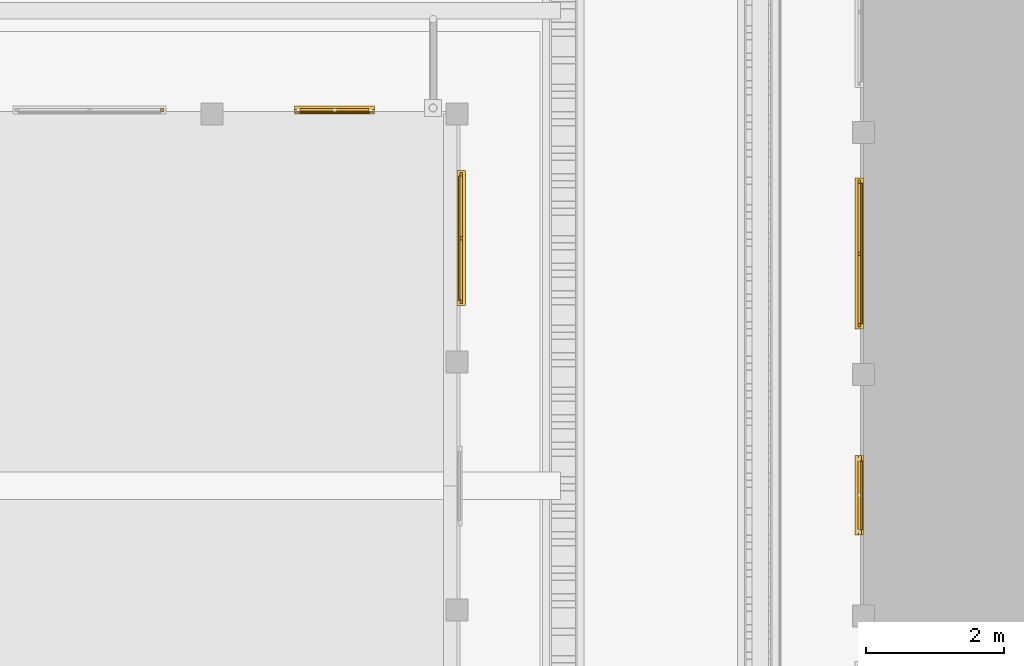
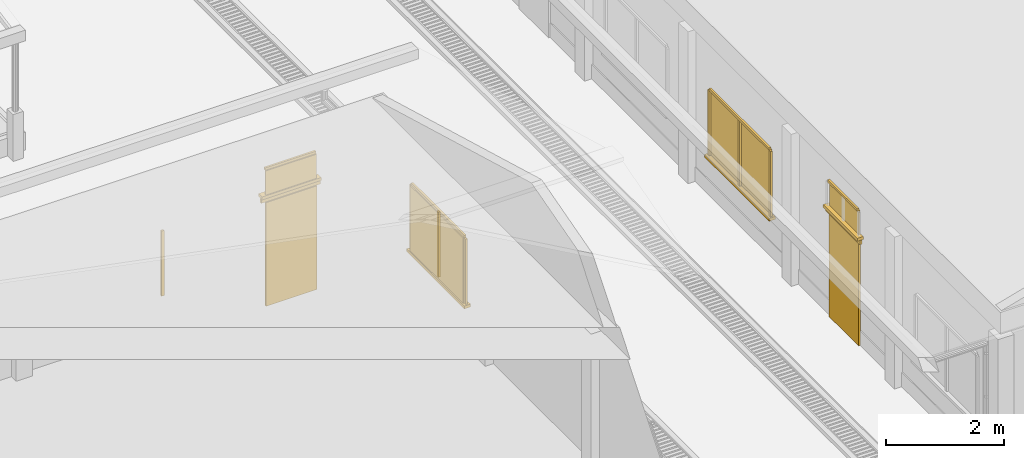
# One storey, part 58 of 166: 19 windows, 4 doors.
"""IFC2X3 building model written with IfcOpenShell, lengths in metres."""

from ifc_helpers import new_model, si_unit, origin, origin_with_axes, place, context, subcontext, project, spatial, faceted_brep, element, save


model = new_model("IFC2X3")

# Units and contexts
model_context = context("Model", 3, precision=1e-05, world=origin_with_axes())
body_context = subcontext(model_context, "Body", "Model", "MODEL_VIEW")
ifc_project = project(units=[si_unit("LENGTHUNIT", "METRE"), si_unit("AREAUNIT", "SQUARE_METRE"), si_unit("VOLUMEUNIT", "CUBIC_METRE"), si_unit("PLANEANGLEUNIT", "RADIAN")], contexts=[model_context])

# Site, building, storey
site_placement = place(None, origin_with_axes())
site = spatial("IfcSite", under=ifc_project, at=site_placement, Name="Predio Los Mangos - Morales, San Martín", CompositionType="ELEMENT")
building_placement = place(site_placement, origin())
building = spatial("IfcBuilding", under=site, at=building_placement, Name="Hogar de Refugio Temporal", CompositionType="ELEMENT")
storey_placement = place(building_placement, origin())
storey = spatial("IfcBuildingStorey", under=building, at=storey_placement, Name="NIVEL 1 (NPT +0.00)", CompositionType="ELEMENT", Elevation=0.0)

# Window
window_1_placement = place(storey_placement, origin())
element("IfcWindow", 1, at=window_1_placement, inside=storey, Name="E-06_v3_m", ObjectType="Ventana", context=body_context, shape_type="Brep", body=[
    faceted_brep([(45.4924, 103.54, 1.05), (45.4924, 103.58, 1.05), (45.5424, 103.58, 1.05), (45.5424, 103.54, 1.05), (45.4924, 103.54, 2.4), (45.5424, 103.54, 2.4), (45.5424, 103.58, 2.4), (45.4924, 103.58, 2.4)], [[[0, 1, 2, 3]], [[4, 5, 6, 7]], [[0, 3, 5, 4]], [[3, 2, 6, 5]], [[2, 1, 7, 6]], [[1, 0, 4, 7]]]),
])

# Doors
door_1_placement = place(storey_placement, origin())
element("IfcDoor", 2, at=door_1_placement, inside=storey, Name="E-06_p4", ObjectType="Puerta", context=body_context, shape_type="Brep", body=[
    faceted_brep([(47.52, 103.51, 0.15), (47.52, 103.55, 0.15), (48.52, 103.55, 0.15), (48.52, 103.51, 0.15), (47.52, 103.51, 2.3), (48.52, 103.51, 2.3), (48.52, 103.55, 2.3), (47.52, 103.55, 2.3)], [[[0, 1, 2, 3]], [[4, 5, 6, 7]], [[0, 3, 5, 4]], [[3, 2, 6, 5]], [[2, 1, 7, 6]], [[1, 0, 4, 7]]]),
])
door_2_placement = place(storey_placement, origin())
element("IfcDoor", 3, at=door_2_placement, inside=storey, Name="E-06_p4_marco", ObjectType="Puerta", context=body_context, shape_type="Brep", body=[
    faceted_brep([(47.44, 103.53, 2.3), (47.44, 103.57, 2.3), (48.6, 103.57, 2.3), (48.6, 103.53, 2.3), (47.44, 103.53, 2.38), (48.6, 103.53, 2.38), (48.6, 103.57, 2.38), (47.44, 103.57, 2.38)], [[[0, 1, 2, 3]], [[4, 5, 6, 7]], [[0, 3, 5, 4]], [[3, 2, 6, 5]], [[2, 1, 7, 6]], [[1, 0, 4, 7]]]),
])

# Windows
window_2_placement = place(storey_placement, origin())
element("IfcWindow", 4, at=window_2_placement, inside=storey, Name="E-06_vt4_vid", ObjectType="Ventana", context=body_context, shape_type="Brep", body=[
    faceted_brep([(47.52, 103.52, 2.45), (47.52, 103.54, 2.45), (48.52, 103.54, 2.45), (48.52, 103.52, 2.45), (47.52, 103.52, 2.95), (48.52, 103.52, 2.95), (48.52, 103.54, 2.95), (47.52, 103.54, 2.95)], [[[0, 1, 2, 3]], [[4, 5, 6, 7]], [[0, 3, 5, 4]], [[3, 2, 6, 5]], [[2, 1, 7, 6]], [[1, 0, 4, 7]]]),
])
window_3_placement = place(storey_placement, origin())
element("IfcWindow", 5, at=window_3_placement, inside=storey, Name="E-06_vt4_m", ObjectType="Ventana", context=body_context, shape_type="Brep", body=[
    faceted_brep([(47.52, 103.54, 2.95), (47.52, 103.58, 2.95), (48.52, 103.58, 2.95), (48.52, 103.54, 2.95), (47.52, 103.54, 3.0), (48.52, 103.54, 3.0), (48.52, 103.58, 3.0), (47.52, 103.58, 3.0)], [[[0, 1, 2, 3]], [[4, 5, 6, 7]], [[0, 3, 5, 4]], [[3, 2, 6, 5]], [[2, 1, 7, 6]], [[1, 0, 4, 7]]]),
])
window_4_placement = place(storey_placement, origin())
element("IfcWindow", 6, at=window_4_placement, inside=storey, Name="E-06_vt4_alf", ObjectType="Ventana", context=body_context, shape_type="Brep", body=[
    faceted_brep([(47.44, 103.5, 2.39), (47.44, 103.62, 2.39), (48.6, 103.62, 2.39), (48.6, 103.5, 2.39), (47.44, 103.5, 2.45), (48.6, 103.5, 2.45), (48.6, 103.62, 2.45), (47.44, 103.62, 2.45)], [[[0, 1, 2, 3]], [[4, 5, 6, 7]], [[0, 3, 5, 4]], [[3, 2, 6, 5]], [[2, 1, 7, 6]], [[1, 0, 4, 7]]]),
])
window_5_placement = place(storey_placement, origin())
element("IfcWindow", 7, at=window_5_placement, inside=storey, Name="E-06_vg2_vid", ObjectType="Ventana", context=body_context, shape_type="Brep", body=[
    faceted_brep([(49.82, 100.8, 1.05), (49.82, 102.6, 1.05), (49.84, 102.6, 1.05), (49.84, 100.8, 1.05), (49.82, 100.8, 2.4), (49.84, 100.8, 2.4), (49.84, 102.6, 2.4), (49.82, 102.6, 2.4)], [[[0, 1, 2, 3]], [[4, 5, 6, 7]], [[0, 3, 5, 4]], [[3, 2, 6, 5]], [[2, 1, 7, 6]], [[1, 0, 4, 7]]]),
])
window_6_placement = place(storey_placement, origin())
element("IfcWindow", 8, at=window_6_placement, inside=storey, Name="E-06_vg2_m", ObjectType="Ventana", context=body_context, shape_type="Brep", body=[
    faceted_brep([(49.84, 100.75, 1.05), (49.84, 100.8, 1.05), (49.88, 100.8, 1.05), (49.88, 100.75, 1.05), (49.84, 100.75, 2.4), (49.88, 100.75, 2.4), (49.88, 100.8, 2.4), (49.84, 100.8, 2.4)], [[[0, 1, 2, 3]], [[4, 5, 6, 7]], [[0, 3, 5, 4]], [[3, 2, 6, 5]], [[2, 1, 7, 6]], [[1, 0, 4, 7]]]),
])
window_7_placement = place(storey_placement, origin())
element("IfcWindow", 9, at=window_7_placement, inside=storey, Name="E-06_vg2_m", ObjectType="Ventana", context=body_context, shape_type="Brep", body=[
    faceted_brep([(49.84, 102.6, 1.05), (49.84, 102.65, 1.05), (49.88, 102.65, 1.05), (49.88, 102.6, 1.05), (49.84, 102.6, 2.4), (49.88, 102.6, 2.4), (49.88, 102.65, 2.4), (49.84, 102.65, 2.4)], [[[0, 1, 2, 3]], [[4, 5, 6, 7]], [[0, 3, 5, 4]], [[3, 2, 6, 5]], [[2, 1, 7, 6]], [[1, 0, 4, 7]]]),
])
window_8_placement = place(storey_placement, origin())
element("IfcWindow", 10, at=window_8_placement, inside=storey, Name="E-06_vg2_m", ObjectType="Ventana", context=body_context, shape_type="Brep", body=[
    faceted_brep([(49.84, 100.8, 2.4), (49.84, 102.6, 2.4), (49.88, 102.6, 2.4), (49.88, 100.8, 2.4), (49.84, 100.8, 2.45), (49.88, 100.8, 2.45), (49.88, 102.6, 2.45), (49.84, 102.6, 2.45)], [[[0, 1, 2, 3]], [[4, 5, 6, 7]], [[0, 3, 5, 4]], [[3, 2, 6, 5]], [[2, 1, 7, 6]], [[1, 0, 4, 7]]]),
])
window_9_placement = place(storey_placement, origin())
element("IfcWindow", 11, at=window_9_placement, inside=storey, Name="E-06_vg2_m", ObjectType="Ventana", context=body_context, shape_type="Brep", body=[
    faceted_brep([(49.84, 101.675, 1.05), (49.84, 101.725, 1.05), (49.88, 101.725, 1.05), (49.88, 101.675, 1.05), (49.84, 101.675, 2.4), (49.88, 101.675, 2.4), (49.88, 101.725, 2.4), (49.84, 101.725, 2.4)], [[[0, 1, 2, 3]], [[4, 5, 6, 7]], [[0, 3, 5, 4]], [[3, 2, 6, 5]], [[2, 1, 7, 6]], [[1, 0, 4, 7]]]),
])
window_10_placement = place(storey_placement, origin())
element("IfcWindow", 12, at=window_10_placement, inside=storey, Name="E-06_vg2_alf", ObjectType="Ventana", context=body_context, shape_type="Brep", body=[
    faceted_brep([(49.8, 100.72, 0.99), (49.8, 102.68, 0.99), (49.92, 102.68, 0.99), (49.92, 100.72, 0.99), (49.8, 100.72, 1.05), (49.92, 100.72, 1.05), (49.92, 102.68, 1.05), (49.8, 102.68, 1.05)], [[[0, 1, 2, 3]], [[4, 5, 6, 7]], [[0, 3, 5, 4]], [[3, 2, 6, 5]], [[2, 1, 7, 6]], [[1, 0, 4, 7]]]),
])

# Doors
door_3_placement = place(storey_placement, origin())
element("IfcDoor", 13, at=door_3_placement, inside=storey, Name="E-07_p1", ObjectType="Puerta", context=body_context, shape_type="Brep", body=[
    faceted_brep([(55.65, 97.465, 0.15), (55.65, 98.465, 0.15), (55.69, 98.465, 0.15), (55.69, 97.465, 0.15), (55.65, 97.465, 2.3), (55.69, 97.465, 2.3), (55.69, 98.465, 2.3), (55.65, 98.465, 2.3)], [[[0, 1, 2, 3]], [[4, 5, 6, 7]], [[0, 3, 5, 4]], [[3, 2, 6, 5]], [[2, 1, 7, 6]], [[1, 0, 4, 7]]]),
])
door_4_placement = place(storey_placement, origin())
element("IfcDoor", 14, at=door_4_placement, inside=storey, Name="E-07_p1_marco", ObjectType="Puerta", context=body_context, shape_type="Brep", body=[
    faceted_brep([(55.63, 97.385, 2.3), (55.63, 98.545, 2.3), (55.67, 98.545, 2.3), (55.67, 97.385, 2.3), (55.63, 97.385, 2.38), (55.67, 97.385, 2.38), (55.67, 98.545, 2.38), (55.63, 98.545, 2.38)], [[[0, 1, 2, 3]], [[4, 5, 6, 7]], [[0, 3, 5, 4]], [[3, 2, 6, 5]], [[2, 1, 7, 6]], [[1, 0, 4, 7]]]),
])

# Windows
window_11_placement = place(storey_placement, origin())
element("IfcWindow", 15, at=window_11_placement, inside=storey, Name="E-07_vt1_vid", ObjectType="Ventana", context=body_context, shape_type="Brep", body=[
    faceted_brep([(55.66, 97.465, 2.45), (55.66, 98.465, 2.45), (55.68, 98.465, 2.45), (55.68, 97.465, 2.45), (55.66, 97.465, 2.95), (55.68, 97.465, 2.95), (55.68, 98.465, 2.95), (55.66, 98.465, 2.95)], [[[0, 1, 2, 3]], [[4, 5, 6, 7]], [[0, 3, 5, 4]], [[3, 2, 6, 5]], [[2, 1, 7, 6]], [[1, 0, 4, 7]]]),
])
window_12_placement = place(storey_placement, origin())
element("IfcWindow", 16, at=window_12_placement, inside=storey, Name="E-07_vt1_m", ObjectType="Ventana", context=body_context, shape_type="Brep", body=[
    faceted_brep([(55.62, 97.465, 2.95), (55.62, 98.465, 2.95), (55.66, 98.465, 2.95), (55.66, 97.465, 2.95), (55.62, 97.465, 3.0), (55.66, 97.465, 3.0), (55.66, 98.465, 3.0), (55.62, 98.465, 3.0)], [[[0, 1, 2, 3]], [[4, 5, 6, 7]], [[0, 3, 5, 4]], [[3, 2, 6, 5]], [[2, 1, 7, 6]], [[1, 0, 4, 7]]]),
])
window_13_placement = place(storey_placement, origin())
element("IfcWindow", 17, at=window_13_placement, inside=storey, Name="E-07_vt1_alf", ObjectType="Ventana", context=body_context, shape_type="Brep", body=[
    faceted_brep([(55.7, 97.385, 2.39), (55.7, 98.545, 2.39), (55.58, 98.545, 2.39), (55.58, 97.385, 2.39), (55.7, 97.385, 2.45), (55.58, 97.385, 2.45), (55.58, 98.545, 2.45), (55.7, 98.545, 2.45)], [[[0, 1, 2, 3]], [[4, 5, 6, 7]], [[0, 3, 5, 4]], [[3, 2, 6, 5]], [[2, 1, 7, 6]], [[1, 0, 4, 7]]]),
])
window_14_placement = place(storey_placement, origin())
element("IfcWindow", 18, at=window_14_placement, inside=storey, Name="E-07_v2_vid", ObjectType="Ventana", context=body_context, shape_type="Brep", body=[
    faceted_brep([(55.66, 100.4571, 1.05), (55.66, 102.4929, 1.05), (55.68, 102.4929, 1.05), (55.68, 100.4571, 1.05), (55.66, 100.4571, 2.4), (55.68, 100.4571, 2.4), (55.68, 102.4929, 2.4), (55.66, 102.4929, 2.4)], [[[0, 1, 2, 3]], [[4, 5, 6, 7]], [[0, 3, 5, 4]], [[3, 2, 6, 5]], [[2, 1, 7, 6]], [[1, 0, 4, 7]]]),
])
window_15_placement = place(storey_placement, origin())
element("IfcWindow", 19, at=window_15_placement, inside=storey, Name="E-07_v2_m", ObjectType="Ventana", context=body_context, shape_type="Brep", body=[
    faceted_brep([(55.62, 100.4071, 1.05), (55.62, 100.4571, 1.05), (55.66, 100.4571, 1.05), (55.66, 100.4071, 1.05), (55.62, 100.4071, 2.4), (55.66, 100.4071, 2.4), (55.66, 100.4571, 2.4), (55.62, 100.4571, 2.4)], [[[0, 1, 2, 3]], [[4, 5, 6, 7]], [[0, 3, 5, 4]], [[3, 2, 6, 5]], [[2, 1, 7, 6]], [[1, 0, 4, 7]]]),
])
window_16_placement = place(storey_placement, origin())
element("IfcWindow", 20, at=window_16_placement, inside=storey, Name="E-07_v2_m", ObjectType="Ventana", context=body_context, shape_type="Brep", body=[
    faceted_brep([(55.62, 102.4929, 1.05), (55.62, 102.5429, 1.05), (55.66, 102.5429, 1.05), (55.66, 102.4929, 1.05), (55.62, 102.4929, 2.4), (55.66, 102.4929, 2.4), (55.66, 102.5429, 2.4), (55.62, 102.5429, 2.4)], [[[0, 1, 2, 3]], [[4, 5, 6, 7]], [[0, 3, 5, 4]], [[3, 2, 6, 5]], [[2, 1, 7, 6]], [[1, 0, 4, 7]]]),
])
window_17_placement = place(storey_placement, origin())
element("IfcWindow", 21, at=window_17_placement, inside=storey, Name="E-07_v2_m", ObjectType="Ventana", context=body_context, shape_type="Brep", body=[
    faceted_brep([(55.62, 100.4571, 2.4), (55.62, 102.4929, 2.4), (55.66, 102.4929, 2.4), (55.66, 100.4571, 2.4), (55.62, 100.4571, 2.45), (55.66, 100.4571, 2.45), (55.66, 102.4929, 2.45), (55.62, 102.4929, 2.45)], [[[0, 1, 2, 3]], [[4, 5, 6, 7]], [[0, 3, 5, 4]], [[3, 2, 6, 5]], [[2, 1, 7, 6]], [[1, 0, 4, 7]]]),
])
window_18_placement = place(storey_placement, origin())
element("IfcWindow", 22, at=window_18_placement, inside=storey, Name="E-07_v2_m", ObjectType="Ventana", context=body_context, shape_type="Brep", body=[
    faceted_brep([(55.62, 101.45, 1.05), (55.62, 101.5, 1.05), (55.66, 101.5, 1.05), (55.66, 101.45, 1.05), (55.62, 101.45, 2.4), (55.66, 101.45, 2.4), (55.66, 101.5, 2.4), (55.62, 101.5, 2.4)], [[[0, 1, 2, 3]], [[4, 5, 6, 7]], [[0, 3, 5, 4]], [[3, 2, 6, 5]], [[2, 1, 7, 6]], [[1, 0, 4, 7]]]),
])
window_19_placement = place(storey_placement, origin())
element("IfcWindow", 23, at=window_19_placement, inside=storey, Name="E-07_v2_alf", ObjectType="Ventana", context=body_context, shape_type="Brep", body=[
    faceted_brep([(55.7, 100.3771, 0.99), (55.7, 102.5729, 0.99), (55.58, 102.5729, 0.99), (55.58, 100.3771, 0.99), (55.7, 100.3771, 1.05), (55.58, 100.3771, 1.05), (55.58, 102.5729, 1.05), (55.7, 102.5729, 1.05)], [[[0, 1, 2, 3]], [[4, 5, 6, 7]], [[0, 3, 5, 4]], [[3, 2, 6, 5]], [[2, 1, 7, 6]], [[1, 0, 4, 7]]]),
])

save(model, "model.ifc")
